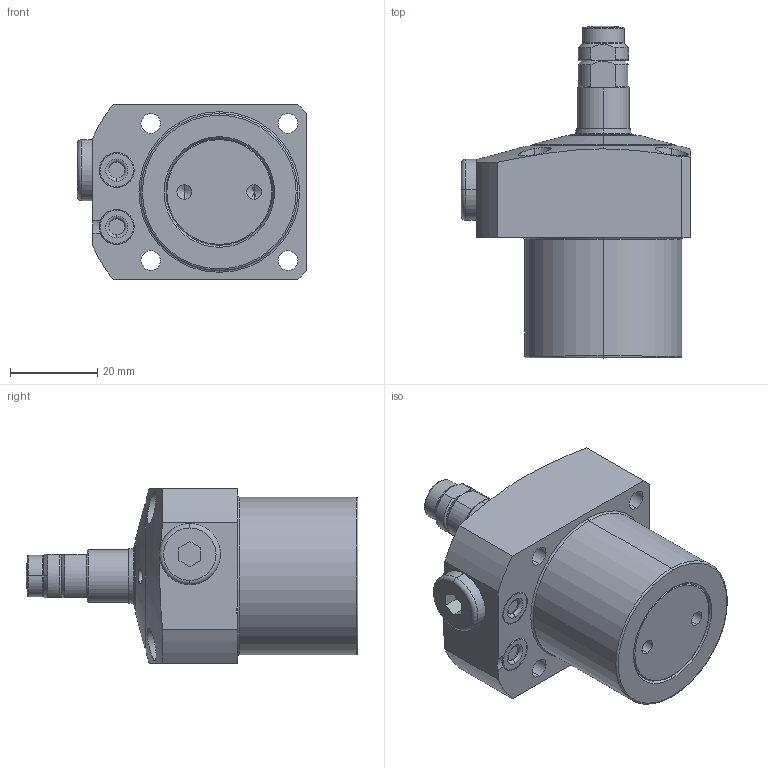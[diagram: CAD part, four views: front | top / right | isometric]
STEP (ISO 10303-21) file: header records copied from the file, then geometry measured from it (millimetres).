
FILE_DESCRIPTION(/* description */ (''),/* implementation_level */ '2;1');
FILE_NAME(/* name */ 'KFSS36-M.stp',/* time_stamp */ '2026-02-06T10:31:40+08:00',/* author */ (''),/* organization */ (''),/* preprocessor_version */ 'ST-DEVELOPER v16.7',/* originating_system */ 'SIEMENS PLM Software NX 12.0',/* authorisation */ '');
FILE_SCHEMA (('AUTOMOTIVE_DESIGN { 1 0 10303 214 3 1 1 1 }'));
Length unit declared in the file: millimetre
Products named in the file (10): XLD-M8_Oring; XLD-M8SP_contactbolt; XLD-M8SP_pad; XLD-M8SP_pin; KFSS36-M-01; KFSS36-M-05-P5; KFSS36-M-04; KFSS36-M-02; KFSS36-M-03; LC0363-CxM-E_step
Assembly tree (10 placements, depth 3):
  LC0363-CxM-E_step
    KFSS36-M-03
      XLD-M8SP_pin
      XLD-M8SP_pad
      XLD-M8SP_contactbolt
      XLD-M8_Oring
    KFSS36-M-02
    KFSS36-M-04
    KFSS36-M-05-P5  x2
    KFSS36-M-01
Bounding box: 52.5 x 76 x 40 mm (x, y, z)
Volume: 67789.5 mm3; surface area: 15634.4 mm2
Topology: 9 solids, 9 shells, 276 faces, 616 edges, 371 vertices
Faces by surface type: cylinder 93, torus 63, plane 60, cone 54, sphere 6
Entity records: 8369 total; most frequent: CARTESIAN_POINT 2023, DIRECTION 1402, ORIENTED_EDGE 1168, AXIS2_PLACEMENT_3D 603, EDGE_CURVE 584, VERTEX_POINT 357, CIRCLE 328, EDGE_LOOP 305
